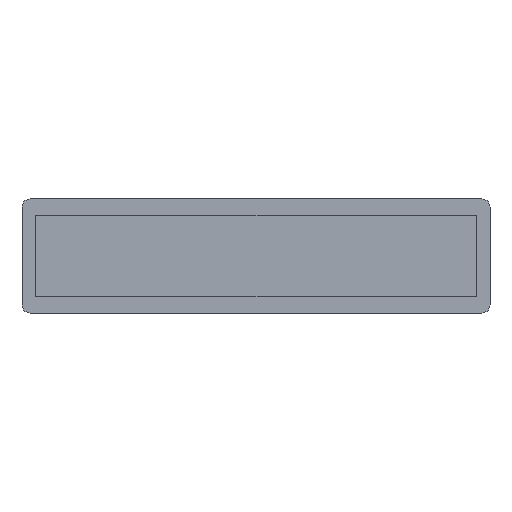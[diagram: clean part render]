
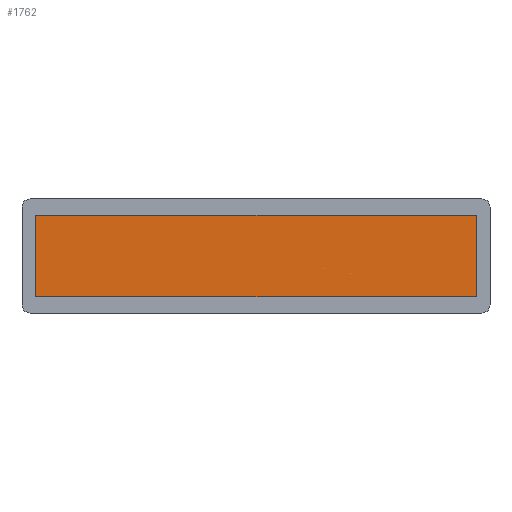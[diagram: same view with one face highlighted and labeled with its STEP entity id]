
A CAD part, front view. The second image highlights one B-rep face of the part: STEP entity #1762.
In plain terms, the highlighted planar face has unit normal (0, -1, 0).
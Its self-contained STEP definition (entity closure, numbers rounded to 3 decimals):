
#274 = VECTOR ( 'NONE', #11773, 1000. ) ;
#432 = DIRECTION ( 'NONE',  ( 0., 0., 1. ) ) ;
#688 = VECTOR ( 'NONE', #5931, 1000. ) ;
#1075 = EDGE_CURVE ( 'NONE', #11280, #10915, #2187, .T. ) ;
#1442 = ORIENTED_EDGE ( 'NONE', *, *, #2462, .T. ) ;
#1566 = CARTESIAN_POINT ( 'NONE',  ( 810., -416.5, -150. ) ) ;
#1572 = LINE ( 'NONE', #6949, #688 ) ;
#1724 = VECTOR ( 'NONE', #432, 1000. ) ;
#1762 = ADVANCED_FACE ( 'NONE', ( #7366 ), #5388, .T. ) ;
#1782 = ORIENTED_EDGE ( 'NONE', *, *, #4857, .T. ) ;
#2187 = LINE ( 'NONE', #4108, #10898 ) ;
#2311 = VERTEX_POINT ( 'NONE', #3946 ) ;
#2462 = EDGE_CURVE ( 'NONE', #2311, #11280, #9808, .T. ) ;
#3011 = VERTEX_POINT ( 'NONE', #4620 ) ;
#3946 = CARTESIAN_POINT ( 'NONE',  ( -810., -416.5, 150. ) ) ;
#4108 = CARTESIAN_POINT ( 'NONE',  ( 810., -416.5, -150. ) ) ;
#4133 = CARTESIAN_POINT ( 'NONE',  ( -810., -416.5, -150. ) ) ;
#4261 = CARTESIAN_POINT ( 'NONE',  ( 810., -416.5, -150. ) ) ;
#4620 = CARTESIAN_POINT ( 'NONE',  ( 810., -416.5, 150. ) ) ;
#4796 = ORIENTED_EDGE ( 'NONE', *, *, #9516, .T. ) ;
#4857 = EDGE_CURVE ( 'NONE', #3011, #2311, #1572, .T. ) ;
#5035 = LINE ( 'NONE', #4261, #1724 ) ;
#5388 = PLANE ( 'NONE',  #10717 ) ;
#5931 = DIRECTION ( 'NONE',  ( -1., 0., 0. ) ) ;
#6949 = CARTESIAN_POINT ( 'NONE',  ( 810., -416.5, 150. ) ) ;
#7303 = CARTESIAN_POINT ( 'NONE',  ( 0., -416.5, 0. ) ) ;
#7366 = FACE_OUTER_BOUND ( 'NONE', #7948, .T. ) ;
#7751 = DIRECTION ( 'NONE',  ( 1., 0., 0. ) ) ;
#7948 = EDGE_LOOP ( 'NONE', ( #1442, #11458, #4796, #1782 ) ) ;
#8154 = CARTESIAN_POINT ( 'NONE',  ( -810., -416.5, -150. ) ) ;
#8251 = DIRECTION ( 'NONE',  ( 0., -1., 0. ) ) ;
#9516 = EDGE_CURVE ( 'NONE', #10915, #3011, #5035, .T. ) ;
#9808 = LINE ( 'NONE', #8154, #274 ) ;
#9966 = DIRECTION ( 'NONE',  ( 0., 0., -1. ) ) ;
#10717 = AXIS2_PLACEMENT_3D ( 'NONE', #7303, #8251, #9966 ) ;
#10898 = VECTOR ( 'NONE', #7751, 1000. ) ;
#10915 = VERTEX_POINT ( 'NONE', #1566 ) ;
#11280 = VERTEX_POINT ( 'NONE', #4133 ) ;
#11458 = ORIENTED_EDGE ( 'NONE', *, *, #1075, .T. ) ;
#11773 = DIRECTION ( 'NONE',  ( 0., 0., -1. ) ) ;
